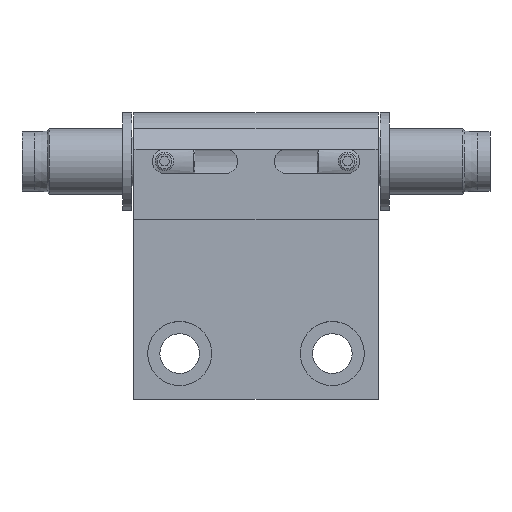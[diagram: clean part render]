
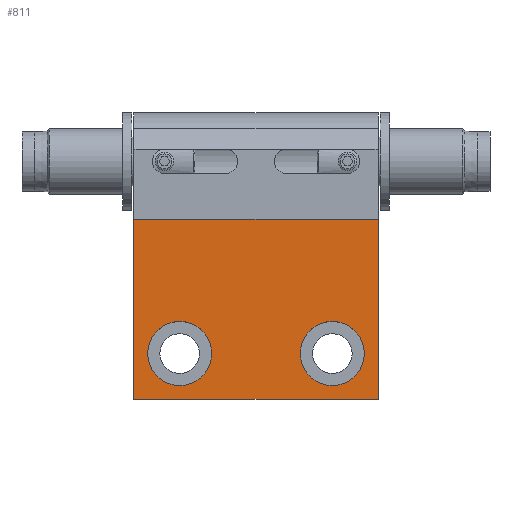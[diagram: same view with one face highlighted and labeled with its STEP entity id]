
A CAD part, top view. The second image highlights one B-rep face of the part: STEP entity #811.
In plain terms, the highlighted planar face has unit normal (0, 0, 1) as drawn and (1, 0, 0) by its records, which use the part's own axes.
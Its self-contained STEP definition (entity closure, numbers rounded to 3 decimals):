
#3 = VECTOR ( 'NONE', #262, 1000. ) ;
#5 = EDGE_CURVE ( 'NONE', #273, #273, #1271, .T. ) ;
#60 = VECTOR ( 'NONE', #1284, 1000. ) ;
#120 = EDGE_CURVE ( 'NONE', #1581, #1451, #569, .T. ) ;
#122 = CARTESIAN_POINT ( 'NONE',  ( 12., 0., -40. ) ) ;
#198 = AXIS2_PLACEMENT_3D ( 'NONE', #1127, #1677, #1250 ) ;
#233 = ORIENTED_EDGE ( 'NONE', *, *, #120, .F. ) ;
#259 = CARTESIAN_POINT ( 'NONE',  ( 12., 9.5, 0. ) ) ;
#262 = DIRECTION ( 'NONE',  ( 0., 1., 0. ) ) ;
#273 = VERTEX_POINT ( 'NONE', #1573 ) ;
#288 = VECTOR ( 'NONE', #1227, 1000. ) ;
#356 = EDGE_CURVE ( 'NONE', #1657, #1581, #622, .T. ) ;
#397 = ORIENTED_EDGE ( 'NONE', *, *, #639, .T. ) ;
#405 = LINE ( 'NONE', #122, #3 ) ;
#504 = DIRECTION ( 'NONE',  ( 0., 0., -1. ) ) ;
#505 = CARTESIAN_POINT ( 'NONE',  ( 12., 31.5, -7.5 ) ) ;
#509 = VERTEX_POINT ( 'NONE', #763 ) ;
#519 = PLANE ( 'NONE',  #893 ) ;
#554 = EDGE_CURVE ( 'NONE', #1657, #509, #1758, .T. ) ;
#569 = LINE ( 'NONE', #1401, #60 ) ;
#622 = LINE ( 'NONE', #1239, #288 ) ;
#625 = FACE_OUTER_BOUND ( 'NONE', #1511, .T. ) ;
#639 = EDGE_CURVE ( 'NONE', #1413, #1413, #1406, .T. ) ;
#658 = FACE_BOUND ( 'NONE', #1024, .T. ) ;
#694 = CARTESIAN_POINT ( 'NONE',  ( 12., 39., 0. ) ) ;
#733 = CARTESIAN_POINT ( 'NONE',  ( 12., 31.5, -37.75 ) ) ;
#763 = CARTESIAN_POINT ( 'NONE',  ( 12., 9.5, -40. ) ) ;
#765 = DIRECTION ( 'NONE',  ( 1., 0., 0. ) ) ;
#775 = CARTESIAN_POINT ( 'NONE',  ( 12., 9.5, -40. ) ) ;
#811 = ADVANCED_FACE ( 'NONE', ( #625, #1498, #658 ), #519, .T. ) ;
#828 = ORIENTED_EDGE ( 'NONE', *, *, #356, .F. ) ;
#832 = VECTOR ( 'NONE', #504, 1000. ) ;
#893 = AXIS2_PLACEMENT_3D ( 'NONE', #1243, #765, #928 ) ;
#915 = DIRECTION ( 'NONE',  ( 0., 0., -1. ) ) ;
#928 = DIRECTION ( 'NONE',  ( 0., 1., 0. ) ) ;
#982 = CARTESIAN_POINT ( 'NONE',  ( 12., 39., -40. ) ) ;
#1024 = EDGE_LOOP ( 'NONE', ( #1488 ) ) ;
#1056 = AXIS2_PLACEMENT_3D ( 'NONE', #505, #1081, #915 ) ;
#1081 = DIRECTION ( 'NONE',  ( -1., 0., 0. ) ) ;
#1127 = CARTESIAN_POINT ( 'NONE',  ( 12., 31.5, -32.5 ) ) ;
#1225 = ORIENTED_EDGE ( 'NONE', *, *, #554, .T. ) ;
#1227 = DIRECTION ( 'NONE',  ( 0., 1., 0. ) ) ;
#1239 = CARTESIAN_POINT ( 'NONE',  ( 12., 0., 0. ) ) ;
#1243 = CARTESIAN_POINT ( 'NONE',  ( 12., 9.5, -40. ) ) ;
#1250 = DIRECTION ( 'NONE',  ( 0., 0., -1. ) ) ;
#1271 = CIRCLE ( 'NONE', #1056, 5.25 ) ;
#1284 = DIRECTION ( 'NONE',  ( 0., 0., -1. ) ) ;
#1401 = CARTESIAN_POINT ( 'NONE',  ( 12., 39., -40. ) ) ;
#1406 = CIRCLE ( 'NONE', #198, 5.25 ) ;
#1413 = VERTEX_POINT ( 'NONE', #733 ) ;
#1451 = VERTEX_POINT ( 'NONE', #982 ) ;
#1477 = EDGE_CURVE ( 'NONE', #509, #1451, #405, .T. ) ;
#1488 = ORIENTED_EDGE ( 'NONE', *, *, #5, .T. ) ;
#1498 = FACE_BOUND ( 'NONE', #1747, .T. ) ;
#1511 = EDGE_LOOP ( 'NONE', ( #1831, #233, #828, #1225 ) ) ;
#1573 = CARTESIAN_POINT ( 'NONE',  ( 12., 31.5, -12.75 ) ) ;
#1581 = VERTEX_POINT ( 'NONE', #694 ) ;
#1657 = VERTEX_POINT ( 'NONE', #259 ) ;
#1677 = DIRECTION ( 'NONE',  ( -1., 0., 0. ) ) ;
#1747 = EDGE_LOOP ( 'NONE', ( #397 ) ) ;
#1758 = LINE ( 'NONE', #775, #832 ) ;
#1831 = ORIENTED_EDGE ( 'NONE', *, *, #1477, .T. ) ;
